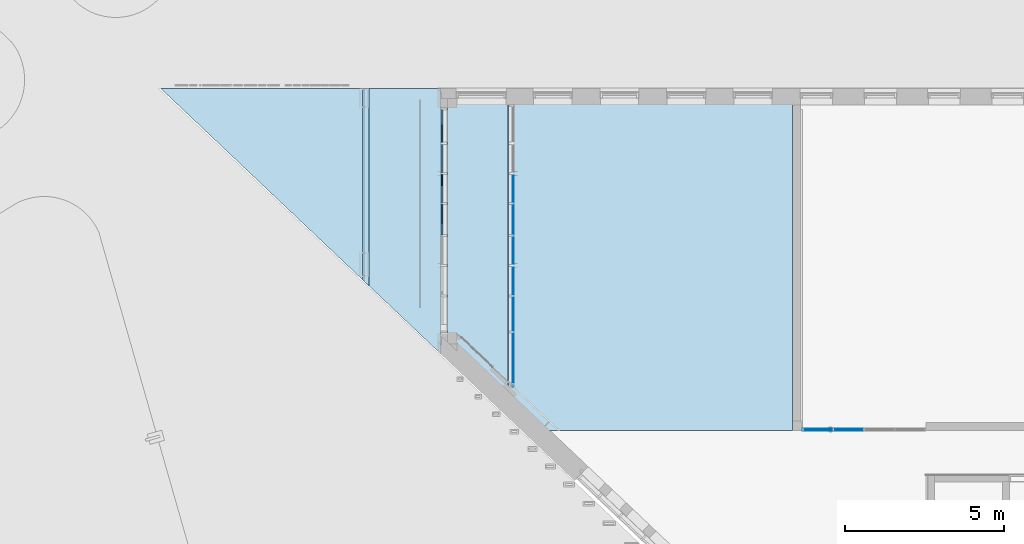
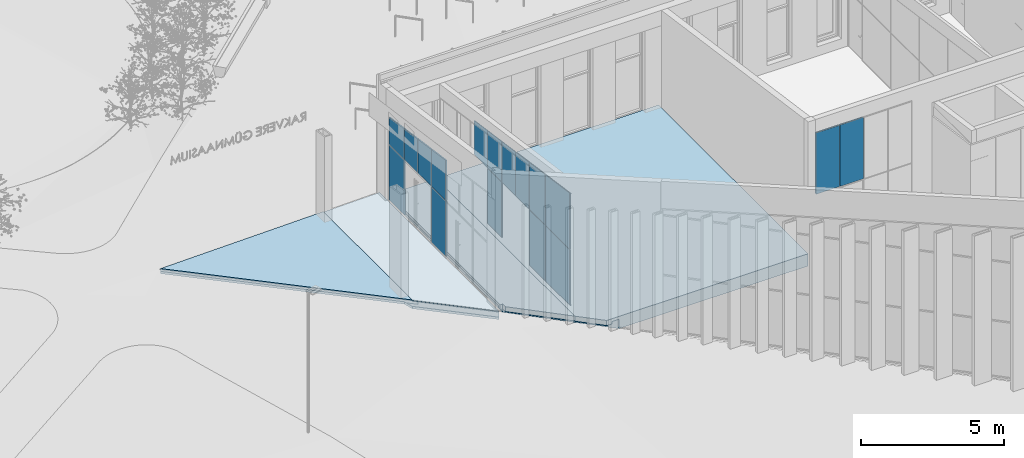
# One storey, part 101 of 246: 17 plates, 8 slabs, 3 elements without a shape of their own.
"""IFC2X3 building model written with IfcOpenShell, lengths in millimetres."""

from ifc_helpers import new_model, entity, si_unit, converted_unit, derived_unit, money_unit, direction, frame, origin_with_axes, place, context, subcontext, project, spatial, faceted_brep, material, material_list, type_object, element, aggregate, save


model = new_model("IFC2X3")

# Units and contexts
model_context = context("Model", 3, precision=0.01, world=origin_with_axes(), true_north=direction((0.0, 1.0)))
body_context = subcontext(model_context, "Body", "Model", "MODEL_VIEW")
ifc_project = project(units=[si_unit("LENGTHUNIT", "METRE", prefix="MILLI"), si_unit("AREAUNIT", "SQUARE_METRE"), si_unit("VOLUMEUNIT", "CUBIC_METRE"), converted_unit("PLANEANGLEUNIT", "DEGREE", entity("IfcPlaneAngleMeasure", 0.0174532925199), si_unit("PLANEANGLEUNIT", "RADIAN"), dimensions=[0, 0, 0, 0, 0, 0, 0]), si_unit("SOLIDANGLEUNIT", "STERADIAN"), money_unit("EUR"), converted_unit("TIMEUNIT", "Year", entity("IfcTimeMeasure", 31556926.0), si_unit("TIMEUNIT", "SECOND"), dimensions=[0, 0, 1, 0, 0, 0, 0]), si_unit("MASSUNIT", "GRAM", prefix="KILO"), si_unit("THERMODYNAMICTEMPERATUREUNIT", "DEGREE_CELSIUS"), si_unit("LUMINOUSINTENSITYUNIT", "LUMEN"), si_unit("ENERGYUNIT", "JOULE", prefix="MEGA"), derived_unit("THERMALCONDUCTANCEUNIT", [(si_unit("POWERUNIT", "WATT"), 1), (si_unit("LENGTHUNIT", "METRE"), -1), (si_unit("THERMODYNAMICTEMPERATUREUNIT", "KELVIN"), -1)]), derived_unit("SPECIFICHEATCAPACITYUNIT", [(si_unit("ENERGYUNIT", "JOULE"), 1), (si_unit("MASSUNIT", "GRAM", prefix="KILO"), -1), (si_unit("THERMODYNAMICTEMPERATUREUNIT", "KELVIN"), -1)]), derived_unit("MASSDENSITYUNIT", [(si_unit("MASSUNIT", "GRAM", prefix="KILO"), 1), (si_unit("VOLUMEUNIT", "CUBIC_METRE"), -1)])], contexts=[model_context])

# Site, building, storey
site_placement = place(None, origin_with_axes())
site = spatial("IfcSite", under=ifc_project, at=site_placement, Name="L.Koidula tn 11b", CompositionType="ELEMENT")
building_placement = place(site_placement, origin_with_axes())
building = spatial("IfcBuilding", under=site, at=building_placement, Name="Rakvere Riigigümnaasium", CompositionType="ELEMENT")
storey_placement = place(building_placement, origin_with_axes())
storey = spatial("IfcBuildingStorey", under=building, at=storey_placement, Name="1.korrus 0,00", CompositionType="ELEMENT", Elevation=0.0)

# Curtain wall, plates
curtain_wall_type = type_object("IfcCurtainWallType", Name="Curtain Wall Type", PredefinedType="NOTDEFINED")
curtain_wall_1_placement = place(storey_placement, frame((14260.0344055, 70945.4519938, -0.000165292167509), z_axis=(0.0, 0.0, 1.0), x_axis=(1.0, 0.0, 0.0)))
curtain_wall_1 = element("IfcCurtainWall", 1, at=curtain_wall_1_placement, inside=storey, type_object=curtain_wall_type, Name="KLF-01A")
ifc_material_1 = material(Name="Klaaspakett 3x")
plate_type_1 = type_object("IfcPlateType", Name="Distinct Panel 1061 x 2351 x 54", PredefinedType="CURTAIN_PANEL")
plate_1_placement = place(curtain_wall_1_placement, frame((0.0, 0.0, 1200.00013009), z_axis=(0.0, 0.0, 1.0), x_axis=(0.0, 1.0, 0.0)))
plate_1 = element("IfcPlate", 2, at=plate_1_placement, type_object=plate_type_1, material=ifc_material_1, Name="KLF-01-Klaasid", ObjectType="CURTAIN_PANEL", context=body_context, shape_type="Brep", body=[
    faceted_brep([(-543.000011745, -27.0, 1188.00012879), (517.999995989, -27.0, 1188.00012879), (517.999995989, 27.0, 1188.00012879), (-543.000011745, 27.0, 1188.00012879), (-543.000011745, -27.0, -1163.00012608), (517.999995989, -27.0, -1163.00012608), (517.999995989, 27.0, -1163.00012608), (-543.000011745, 27.0, -1163.00012608)], [[[0, 1, 2, 3]], [[0, 4, 5, 1]], [[1, 5, 6, 2]], [[3, 2, 6, 7]], [[4, 0, 3, 7]], [[5, 4, 7, 6]]]),
])
plate_type_2 = type_object("IfcPlateType", Name="Distinct Panel 981 x 2351 x 54", PredefinedType="CURTAIN_PANEL")
plate_2_placement = place(curtain_wall_1_placement, frame((0.0, -2957.5, 1200.00013009), z_axis=(0.0, 0.0, 1.0), x_axis=(0.0, 1.0, 0.0)))
plate_2 = element("IfcPlate", 3, at=plate_2_placement, type_object=plate_type_2, material=ifc_material_1, Name="KLF-01-Klaasid", ObjectType="CURTAIN_PANEL", context=body_context, shape_type="Brep", body=[
    faceted_brep([(-490.500000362, -27.0, 1188.00012879), (490.499998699, -27.0, 1188.00012879), (490.499998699, 27.0, 1188.00012879), (-490.500000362, 27.0, 1188.00012879), (-490.500000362, -27.0, -1163.00012608), (490.499998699, -27.0, -1163.00012608), (490.499998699, 27.0, -1163.00012608), (-490.500000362, 27.0, -1163.00012608)], [[[0, 1, 2, 3]], [[0, 4, 5, 1]], [[1, 5, 6, 2]], [[3, 2, 6, 7]], [[4, 0, 3, 7]], [[5, 4, 7, 6]]]),
])
plate_type_3 = type_object("IfcPlateType", Name="Distinct Panel 1061 x 1144 x 54", PredefinedType="CURTAIN_PANEL")
plate_3_placement = place(curtain_wall_1_placement, frame((0.0, 0.0, 3033.32721157), z_axis=(0.0, 0.0, 1.0), x_axis=(0.0, 1.0, 0.0)))
plate_3 = element("IfcPlate", 4, at=plate_3_placement, type_object=plate_type_3, material=ifc_material_1, Name="KLF-01-Klaasid", ObjectType="CURTAIN_PANEL", context=body_context, shape_type="Brep", body=[
    faceted_brep([(-542.999997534, -27.0, 673.239252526), (518.000000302, -27.0, 522.227144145), (518.000000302, 27.0, 522.227144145), (-542.999997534, 27.0, 673.239252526), (-542.999997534, -27.0, -621.326957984), (518.000000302, -27.0, -621.326957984), (518.000000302, 27.0, -621.326957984), (-542.999997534, 27.0, -621.326957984)], [[[0, 1, 2, 3]], [[0, 4, 5, 1]], [[1, 5, 6, 2]], [[3, 2, 6, 7]], [[4, 0, 3, 7]], [[5, 4, 7, 6]]]),
])
plate_type_4 = type_object("IfcPlateType", Name="Distinct Panel 926 x 1433 x 54", PredefinedType="CURTAIN_PANEL")
plate_4_placement = place(curtain_wall_1_placement, frame((0.0, -1980.0, 3174.23388342), z_axis=(0.0, 0.0, 1.0), x_axis=(0.0, 1.0, 0.0)))
plate_4 = element("IfcPlate", 5, at=plate_4_placement, type_object=plate_type_4, material=ifc_material_1, Name="KLF-01-Klaasid", ObjectType="CURTAIN_PANEL", context=body_context, shape_type="Brep", body=[
    faceted_brep([(-463.000011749, -27.0, 802.759487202), (462.999996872, -27.0, 670.962001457), (462.999996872, 27.0, 670.962001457), (-463.000011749, 27.0, 802.759487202), (-463.000011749, -27.0, -762.233620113), (462.999996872, -27.0, -762.233620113), (462.999996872, 27.0, -762.233620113), (-463.000011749, 27.0, -762.233620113)], [[[0, 1, 2, 3]], [[0, 4, 5, 1]], [[1, 5, 6, 2]], [[3, 2, 6, 7]], [[4, 0, 3, 7]], [[5, 4, 7, 6]]]),
])
plate_type_5 = type_object("IfcPlateType", Name="Distinct Panel 926 x 1298 x 54", PredefinedType="CURTAIN_PANEL")
plate_5_placement = place(curtain_wall_1_placement, frame((0.0, -1030.0, 3106.62715372), z_axis=(0.0, 0.0, 1.0), x_axis=(0.0, 1.0, 0.0)))
plate_5 = element("IfcPlate", 6, at=plate_5_placement, type_object=plate_type_5, material=ifc_material_1, Name="KLF-01-Klaasid", ObjectType="CURTAIN_PANEL", context=body_context, shape_type="Brep", body=[
    faceted_brep([(-462.999996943, -27.0, 735.152796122), (463.000004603, -27.0, 603.355197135), (463.000004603, 27.0, 603.355197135), (-462.999996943, 27.0, 735.152796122), (-462.999996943, -27.0, -694.626898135), (463.000004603, -27.0, -694.626898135), (463.000004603, 27.0, -694.626898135), (-462.999996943, 27.0, -694.626898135)], [[[0, 1, 2, 3]], [[0, 4, 5, 1]], [[1, 5, 6, 2]], [[3, 2, 6, 7]], [[4, 0, 3, 7]], [[5, 4, 7, 6]]]),
])
plate_type_6 = type_object("IfcPlateType", Name="Distinct Panel 981 x 1568 x 54", PredefinedType="CURTAIN_PANEL")
plate_6_placement = place(curtain_wall_1_placement, frame((0.0, -2957.5, 3243.79766232), z_axis=(0.0, 0.0, 1.0), x_axis=(0.0, 1.0, 0.0)))
plate_6 = element("IfcPlate", 7, at=plate_6_placement, type_object=plate_type_6, material=ifc_material_1, Name="KLF-01-Klaasid", ObjectType="CURTAIN_PANEL", context=body_context, shape_type="Brep", body=[
    faceted_brep([(-490.500013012, -27.0, 876.237431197), (490.500000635, -27.0, 736.611610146), (490.500000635, 27.0, 736.611610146), (-490.500013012, 27.0, 876.237431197), (-490.500013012, -27.0, -831.797402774), (490.500000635, -27.0, -831.797402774), (490.500000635, 27.0, -831.797402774), (-490.500013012, 27.0, -831.797402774)], [[[0, 1, 2, 3]], [[0, 4, 5, 1]], [[1, 5, 6, 2]], [[3, 2, 6, 7]], [[4, 0, 3, 7]], [[5, 4, 7, 6]]]),
])
aggregate(curtain_wall_1, [plate_1, plate_2, plate_3, plate_4, plate_5, plate_6])

curtain_wall_2_placement = place(storey_placement, frame((26572.4999007, 61372.4546496, 0.0), z_axis=(0.0, 0.0, 1.0), x_axis=(1.0, 0.0, 0.0)))
curtain_wall_2 = element("IfcCurtainWall", 8, at=curtain_wall_2_placement, inside=storey, type_object=curtain_wall_type, Name="SKLF-01")
ifc_material_2 = material(Name="VKR-05_Klaas")
plate_type_7 = type_object("IfcPlateType", Name="Siseklaasfassaad - Klaas-Doubleline30 941 x 2620 x 17", PredefinedType="CURTAIN_PANEL")
plate_7_placement = place(curtain_wall_2_placement, frame((-486.25, 0.0, 3725.0), z_axis=(0.0, 0.0, 1.0), x_axis=(-1.0, 0.0, 0.0)))
plate_7 = element("IfcPlate", 9, at=plate_7_placement, type_object=plate_type_7, material=ifc_material_2, Name="Panel-Siseklaasf-019", ObjectType="CURTAIN_PANEL", context=body_context, shape_type="Brep", body=[
    faceted_brep([(-469.24999553, -37.0, 1310.00000522), (471.250005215, -37.0, 1310.00000522), (471.250005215, -25.0, 1310.00000522), (-469.24999553, -25.0, 1310.00000522), (-469.24999553, -37.0, -1310.00000522), (471.250005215, -37.0, -1310.00000522), (471.250005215, -25.0, -1310.00000522), (-469.24999553, -25.0, -1310.00000522)], [[[0, 1, 2, 3]], [[0, 4, 5, 1]], [[1, 5, 6, 2]], [[3, 2, 6, 7]], [[4, 0, 3, 7]], [[5, 4, 7, 6]]]),
    faceted_brep([(-469.24999553, 15.0, 1310.00000522), (471.250005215, 15.0, 1310.00000522), (471.250005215, 27.0, 1310.00000522), (-469.24999553, 27.0, 1310.00000522), (-469.24999553, 15.0, -1310.00000522), (471.250005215, 15.0, -1310.00000522), (471.250005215, 27.0, -1310.00000522), (-469.24999553, 27.0, -1310.00000522)], [[[0, 1, 2, 3]], [[0, 4, 5, 1]], [[1, 5, 6, 2]], [[3, 2, 6, 7]], [[4, 0, 3, 7]], [[5, 4, 7, 6]]]),
])
plate_type_8 = type_object("IfcPlateType", Name="Siseklaasfassaad - Klaas-Doubleline30 938 x 2620 x 17", PredefinedType="CURTAIN_PANEL")
plate_8_placement = place(curtain_wall_2_placement, frame((486.25, 0.0, 3725.0), z_axis=(0.0, 0.0, 1.0), x_axis=(-1.0, 0.0, 0.0)))
plate_8 = element("IfcPlate", 10, at=plate_8_placement, type_object=plate_type_8, material=ifc_material_2, Name="Panel-Siseklaasf-019", ObjectType="CURTAIN_PANEL", context=body_context, shape_type="Brep", body=[
    faceted_brep([(-469.24999553, -37.0, 1310.00000522), (469.249971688, -37.0, 1310.00000522), (469.249971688, -25.0, 1310.00000522), (-469.24999553, -25.0, 1310.00000522), (-469.24999553, -37.0, -1310.00000522), (469.249971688, -37.0, -1310.00000522), (469.249971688, -25.0, -1310.00000522), (-469.24999553, -25.0, -1310.00000522)], [[[0, 1, 2, 3]], [[0, 4, 5, 1]], [[1, 5, 6, 2]], [[3, 2, 6, 7]], [[4, 0, 3, 7]], [[5, 4, 7, 6]]]),
    faceted_brep([(-469.24999553, 15.0, 1310.00000522), (469.249971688, 15.0, 1310.00000522), (469.249971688, 27.0, 1310.00000522), (-469.24999553, 27.0, 1310.00000522), (-469.24999553, 15.0, -1310.00000522), (469.249971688, 15.0, -1310.00000522), (469.249971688, 27.0, -1310.00000522), (-469.24999553, 27.0, -1310.00000522)], [[[0, 1, 2, 3]], [[0, 4, 5, 1]], [[1, 5, 6, 2]], [[3, 2, 6, 7]], [[4, 0, 3, 7]], [[5, 4, 7, 6]]]),
])
aggregate(curtain_wall_2, [plate_7, plate_8])

curtain_wall_3_placement = place(storey_placement, frame((16510.0495753, 70995.4517615, -0.000456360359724), z_axis=(0.0, 0.0, 1.0), x_axis=(1.0, 0.0, 0.0)))
curtain_wall_3 = element("IfcCurtainWall", 11, at=curtain_wall_3_placement, inside=storey, type_object=curtain_wall_type, Name="KLF-01B")
ifc_material_3 = material(Name="Klaaspakett 2x")
plate_type_9 = type_object("IfcPlateType", Name="Distinct Panel 981 x 2351 x 30", PredefinedType="CURTAIN_PANEL")
plate_9_placement = place(curtain_wall_3_placement, frame((0.0, -3007.49976778, 1200.00014553), z_axis=(0.0, 0.0, 1.0), x_axis=(0.0, 1.0, 0.0)))
plate_9 = element("IfcPlate", 12, at=plate_9_placement, type_object=plate_type_9, material=ifc_material_3, Name="KLF-01-Klaasid", ObjectType="CURTAIN_PANEL", context=body_context, shape_type="Brep", body=[
    faceted_brep([(-490.500000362, 15.0, 1188.00011335), (-490.500000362, -15.0, 1188.00011335), (490.499998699, -15.0, 1188.00011335), (490.499998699, 15.0, 1188.00011335), (-490.500000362, 15.0, -1163.00014152), (-490.500000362, -15.0, -1163.00014152), (490.499998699, -15.0, -1163.00014152), (490.499998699, 15.0, -1163.00014152)], [[[0, 1, 2, 3]], [[4, 5, 1, 0]], [[1, 5, 6, 2]], [[3, 2, 6, 7]], [[0, 3, 7, 4]], [[7, 6, 5, 4]]]),
])
plate_type_10 = type_object("IfcPlateType", Name="Distinct Panel 926 x 1725 x 30", PredefinedType="CURTAIN_PANEL")
plate_10_placement = place(curtain_wall_3_placement, frame((0.0, -3984.99976778, 3320.2154147), z_axis=(0.0, 0.0, 1.0), x_axis=(0.0, 1.0, 0.0)))
plate_10 = element("IfcPlate", 13, at=plate_10_placement, type_object=plate_type_10, material=ifc_material_3, Name="KLF-01-Klaasid", ObjectType="CURTAIN_PANEL", context=body_context, shape_type="Brep", body=[
    faceted_brep([(-463.000007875, 15.0, 948.736929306), (-463.000007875, -15.0, 948.736929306), (462.999990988, -15.0, 816.947652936), (462.999990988, 15.0, 816.947652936), (-463.000007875, 15.0, -908.215114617), (-463.000007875, -15.0, -908.215114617), (462.999990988, -15.0, -908.215114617), (462.999990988, 15.0, -908.215114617)], [[[0, 1, 2, 3]], [[4, 5, 1, 0]], [[1, 5, 6, 2]], [[3, 2, 6, 7]], [[0, 3, 7, 4]], [[7, 6, 5, 4]]]),
])
plate_type_11 = type_object("IfcPlateType", Name="Distinct Panel 926 x 1860 x 30", PredefinedType="CURTAIN_PANEL")
plate_11_placement = place(curtain_wall_3_placement, frame((0.0, -4934.99976778, 3387.81793702), z_axis=(0.0, 0.0, 1.0), x_axis=(0.0, 1.0, 0.0)))
plate_11 = element("IfcPlate", 14, at=plate_11_placement, type_object=plate_type_11, material=ifc_material_3, Name="KLF-01-Klaasid", ObjectType="CURTAIN_PANEL", context=body_context, shape_type="Brep", body=[
    faceted_brep([(-463.000012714, 15.0, 1016.33952648), (-463.000012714, -15.0, 1016.33952648), (463.000002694, -15.0, 884.550094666), (463.000002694, 15.0, 884.550094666), (-463.000012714, 15.0, -975.817648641), (-463.000012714, -15.0, -975.817648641), (463.000002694, -15.0, -975.817648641), (463.000002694, 15.0, -975.817648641)], [[[0, 1, 2, 3]], [[4, 5, 1, 0]], [[1, 5, 6, 2]], [[3, 2, 6, 7]], [[0, 3, 7, 4]], [[7, 6, 5, 4]]]),
])
plate_type_12 = type_object("IfcPlateType", Name="Distinct Panel 1111 x 2351 x 30", PredefinedType="CURTAIN_PANEL")
plate_12_placement = place(curtain_wall_3_placement, frame((0.0, -5977.49976778, 1200.00014553), z_axis=(0.0, 0.0, 1.0), x_axis=(0.0, 1.0, 0.0)))
plate_12 = element("IfcPlate", 15, at=plate_12_placement, type_object=plate_type_12, material=ifc_material_3, Name="KLF-04-Klaasid", ObjectType="CURTAIN_PANEL", context=body_context, shape_type="Brep", body=[
    faceted_brep([(-555.500014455, 15.0, 1188.00011335), (-555.500014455, -15.0, 1188.00011335), (555.499998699, -15.0, 1188.00011335), (555.499998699, 15.0, 1188.00011335), (-555.500014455, 15.0, -1163.00014152), (-555.500014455, -15.0, -1163.00014152), (555.499998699, -15.0, -1163.00014152), (555.499998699, 15.0, -1163.00014152)], [[[0, 1, 2, 3]], [[4, 5, 1, 0]], [[1, 5, 6, 2]], [[3, 2, 6, 7]], [[0, 3, 7, 4]], [[7, 6, 5, 4]]]),
])
plate_type_13 = type_object("IfcPlateType", Name="Distinct Panel 1111 x 1996 x 30", PredefinedType="CURTAIN_PANEL")
plate_13_placement = place(curtain_wall_3_placement, frame((0.0, -5977.49976778, 3462.00281132), z_axis=(0.0, 0.0, 1.0), x_axis=(0.0, 1.0, 0.0)))
plate_13 = element("IfcPlate", 16, at=plate_13_placement, type_object=plate_type_13, material=ifc_material_3, Name="KLF-03-Klaasid", ObjectType="CURTAIN_PANEL", context=body_context, shape_type="Brep", body=[
    faceted_brep([(-555.50000527, 15.0, 1103.68899152), (-555.50000527, -15.0, 1103.68899152), (555.499989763, -15.0, 945.570353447), (555.499989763, 15.0, 945.570353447), (-555.50000527, 15.0, -1050.00251002), (-555.50000527, -15.0, -1050.00251002), (555.499989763, -15.0, -1050.00251002), (555.499989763, 15.0, -1050.00251002)], [[[0, 1, 2, 3]], [[4, 5, 1, 0]], [[1, 5, 6, 2]], [[3, 2, 6, 7]], [[0, 3, 7, 4]], [[7, 6, 5, 4]]]),
])
plate_type_14 = type_object("IfcPlateType", Name="Distinct Panel 926 x 1447 x 30", PredefinedType="CURTAIN_PANEL")
plate_14_placement = place(curtain_wall_3_placement, frame((0.0, -2029.99976778, 3181.09657133), z_axis=(0.0, 0.0, 1.0), x_axis=(0.0, 1.0, 0.0)))
plate_14 = element("IfcPlate", 17, at=plate_14_placement, type_object=plate_type_14, material=ifc_material_3, Name="KLF-01-Klaasid", ObjectType="CURTAIN_PANEL", context=body_context, shape_type="Brep", body=[
    faceted_brep([(-463.00000889, 15.0, 809.618106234), (-463.00000889, -15.0, 809.618106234), (462.999991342, -15.0, 677.82881228), (462.999991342, 15.0, 677.82881228), (-463.00000889, 15.0, -769.096271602), (-463.00000889, -15.0, -769.096271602), (462.999991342, -15.0, -769.096271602), (462.999991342, 15.0, -769.096271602)], [[[0, 1, 2, 3]], [[4, 5, 1, 0]], [[1, 5, 6, 2]], [[3, 2, 6, 7]], [[0, 3, 7, 4]], [[7, 6, 5, 4]]]),
])
plate_type_15 = type_object("IfcPlateType", Name="Distinct Panel 981 x 1582 x 30", PredefinedType="CURTAIN_PANEL")
plate_15_placement = place(curtain_wall_3_placement, frame((0.0, -3007.49976778, 3250.65599301), z_axis=(0.0, 0.0, 1.0), x_axis=(0.0, 1.0, 0.0)))
plate_15 = element("IfcPlate", 18, at=plate_15_placement, type_object=plate_type_15, material=ifc_material_3, Name="KLF-01-Klaasid", ObjectType="CURTAIN_PANEL", context=body_context, shape_type="Brep", body=[
    faceted_brep([(-490.500007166, 15.0, 883.09137569), (-490.500007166, -15.0, 883.09137569), (490.50000542, -15.0, 743.474347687), (490.50000542, 15.0, 743.474347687), (-490.500007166, 15.0, -838.655707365), (-490.500007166, -15.0, -838.655707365), (490.50000542, -15.0, -838.655707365), (490.50000542, 15.0, -838.655707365)], [[[0, 1, 2, 3]], [[4, 5, 1, 0]], [[1, 5, 6, 2]], [[3, 2, 6, 7]], [[0, 3, 7, 4]], [[7, 6, 5, 4]]]),
])
plate_type_16 = type_object("IfcPlateType", Name="Distinct Panel 1588 x 2351 x 30", PredefinedType="CURTAIN_PANEL")
plate_16_placement = place(curtain_wall_3_placement, frame((0.0, -7742.63751031, 1036.79126438), z_axis=(0.0, 0.0, 1.0), x_axis=(0.0, 1.0, 0.0)))
plate_16 = element("IfcPlate", 19, at=plate_16_placement, type_object=plate_type_16, material=ifc_material_3, Name="KLF-05-Klaasid", ObjectType="CURTAIN_PANEL", context=body_context, shape_type="Brep", body=[
    faceted_brep([(-500.183649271, 15.0, 1351.20902523), (-500.183649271, -15.0, 1351.20902523), (-402.362272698, -15.0, 1351.20902523), (-402.362272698, 15.0, 1351.20902523), (-500.183649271, 15.0, -979.253277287), (-500.183649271, -15.0, -979.253277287), (-530.18365291, -15.0, -979.253277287), (-530.18365291, -15.0, -999.791259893), (-402.362272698, -15.0, -999.791259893), (1185.63774108, -15.0, -999.791259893), (1185.63774108, -15.0, 1351.20902523), (1185.63774108, 15.0, 1351.20902523), (1185.63774108, 15.0, -999.791259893), (-402.362272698, 15.0, -999.791259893), (-530.18365291, 15.0, -999.791259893), (-530.18365291, 15.0, -979.253277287)], [[[0, 1, 2, 3]], [[4, 5, 1, 0]], [[1, 5, 6, 7, 8, 9, 10, 2]], [[3, 2, 10, 11]], [[0, 3, 11, 12, 13, 14, 15, 4]], [[15, 6, 5, 4]], [[14, 7, 6, 15]], [[13, 8, 7, 14]], [[12, 9, 8, 13]], [[11, 10, 9, 12]]]),
])
plate_type_17 = type_object("IfcPlateType", Name="Distinct Panel 1588 x 2157 x 30", PredefinedType="CURTAIN_PANEL")
plate_17_placement = place(curtain_wall_3_placement, frame((0.0, -7742.63751031, 3754.43962306), z_axis=(0.0, 0.0, 1.0), x_axis=(0.0, 1.0, 0.0)))
plate_17 = element("IfcPlate", 20, at=plate_17_placement, type_object=plate_type_17, material=ifc_material_3, Name="KLF-06-Klaasid", ObjectType="CURTAIN_PANEL", context=body_context, shape_type="Brep", body=[
    faceted_brep([(-530.18366396, 15.0, 1058.86539613), (-530.18366396, -15.0, 1058.86539613), (-407.57561642, -15.0, 1041.41564617), (-407.57561642, 15.0, 1041.41564617), (-530.18366396, 15.0, 1038.7003155), (-530.18366396, -15.0, 1038.7003155), (-500.183671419, -15.0, 1038.7003155), (-500.183671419, -15.0, -1342.43934228), (-402.362273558, -15.0, -1342.43934228), (1185.63775282, -15.0, -1342.43934228), (1185.63775282, -15.0, 814.667933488), (1185.63775282, 15.0, 814.667933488), (1185.63775282, 15.0, -1342.43934228), (-402.362273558, 15.0, -1342.43934228), (-500.183671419, 15.0, -1342.43934228), (-500.183671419, 15.0, 1038.7003155)], [[[0, 1, 2, 3]], [[4, 5, 1, 0]], [[1, 5, 6, 7, 8, 9, 10, 2]], [[3, 2, 10, 11]], [[0, 3, 11, 12, 13, 14, 15, 4]], [[15, 6, 5, 4]], [[14, 7, 6, 15]], [[13, 8, 7, 14]], [[12, 9, 8, 13]], [[11, 10, 9, 12]]]),
])
aggregate(curtain_wall_3, [plate_9, plate_10, plate_11, plate_12, plate_13, plate_14, plate_15, plate_16, plate_17])

# Slabs
ifc_material_4 = material(Name="Betoon- must")
ifc_material_5 = material(Name="Soojustus - EPS")
ifc_material_6 = material(Name="Killustik")
ifc_material_list_1 = material_list([ifc_material_4, ifc_material_5, ifc_material_5, ifc_material_6])
slab_type_1 = type_object("IfcSlabType", Name="PP-03 520", PredefinedType="NOTDEFINED")
slab_1_placement = place(storey_placement, frame((16342.0000292, 62125.351306, 0.0), z_axis=(0.0, 0.0, 1.0), x_axis=(1.0, 0.0, 0.0)))
element("IfcSlab", 21, at=slab_1_placement, inside=storey, type_object=slab_type_1, material=ifc_material_list_1, Name="Põrand pinnasel", PredefinedType="NOTDEFINED", context=body_context, shape_type="Brep", body=[
    faceted_brep([(831.168485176, -784.896656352, -120.0), (831.168485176, -784.896656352, 0.0), (0.0, 0.0, 0.0), (0.0, 0.0, -120.0), (8957.99987111, -784.896656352, -120.0), (8957.99987111, -784.896656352, 0.0), (8957.99987492, 9675.10068777, 0.0), (0.0, 9675.10042999, 0.0), (0.0, 9675.10042999, -120.0), (8957.99987492, 9675.10068777, -120.0)], [[[0, 1, 2, 3]], [[4, 5, 1, 0]], [[2, 1, 5, 6, 7]], [[3, 2, 7, 8]], [[3, 8, 9, 4, 0]], [[9, 6, 5, 4]], [[8, 7, 6, 9]]]),
    faceted_brep([(1035.28412372, -784.896656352, -220.0), (1035.28412372, -784.896656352, -120.0), (831.168485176, -784.896656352, -120.0), (831.168485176, -784.896656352, -220.0), (0.0, 195.778223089, -120.0), (0.0, 195.778223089, -220.0), (0.0, 0.0, -120.0), (0.0, 0.0, -220.0)], [[[0, 1, 2, 3]], [[4, 1, 0, 5]], [[1, 4, 6, 2]], [[7, 3, 2, 6]], [[5, 0, 3, 7]], [[4, 5, 7, 6]]]),
    faceted_brep([(0.0, 471.26224876, -120.0), (1326.10857951, -784.896656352, -120.0), (8957.99987111, -784.896656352, -120.0), (8957.99987485, 9475.10037785, -120.0), (0.0, 9475.10037785, -120.0), (1326.10857951, -784.896656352, -220.0), (0.0, 471.26224876, -220.0), (8957.99987111, -784.896656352, -220.0), (8957.99987485, 9475.10037785, -220.0), (0.0, 9475.10037785, -220.0)], [[[0, 1, 2, 3, 4]], [[5, 1, 0, 6]], [[1, 5, 7, 2]], [[8, 3, 2, 7]], [[4, 3, 8, 9]], [[6, 0, 4, 9]], [[5, 6, 9, 8, 7]]]),
    faceted_brep([(0.0, 471.26224876, -220.0), (1326.10857951, -784.896656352, -220.0), (8957.99987111, -784.896656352, -220.0), (8957.99987485, 9475.10037785, -220.0), (0.0, 9475.10037785, -220.0), (1326.10857951, -784.896656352, -320.0), (0.0, 471.26224876, -320.0), (8957.99987111, -784.896656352, -320.0), (8957.99987485, 9475.10037785, -320.0), (0.0, 9475.10037785, -320.0)], [[[0, 1, 2, 3, 4]], [[5, 1, 0, 6]], [[1, 5, 7, 2]], [[8, 3, 2, 7]], [[4, 3, 8, 9]], [[6, 0, 4, 9]], [[5, 6, 9, 8, 7]]]),
    faceted_brep([(0.0, 471.26224876, -320.0), (1326.10857951, -784.896656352, -320.0), (8957.99987111, -784.896656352, -320.0), (8957.99987485, 9475.10037785, -320.0), (0.0, 9475.10037785, -320.0), (1326.10857951, -784.896656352, -520.0), (0.0, 471.26224876, -520.0), (8957.99987111, -784.896656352, -520.0), (8957.99987485, 9475.10037785, -520.0), (0.0, 9475.10037785, -520.0)], [[[0, 1, 2, 3, 4]], [[5, 1, 0, 6]], [[1, 5, 7, 2]], [[8, 3, 2, 7]], [[4, 3, 8, 9]], [[6, 0, 4, 9]], [[5, 6, 9, 8, 7]]]),
])
slab_type_2 = type_object("IfcSlabType", Name="Betoon- must 154", PredefinedType="NOTDEFINED")
slab_2_placement = place(storey_placement, frame((14216.0344056, 69621.5499024, -173.720734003), z_axis=(0.0, 0.0, 1.0), x_axis=(0.0, 1.0, 0.0)))
element("IfcSlab", 22, at=slab_2_placement, inside=storey, type_object=slab_type_2, material=ifc_material_4, Name="Põrand pinnasel kaldus", PredefinedType="NOTDEFINED", context=body_context, shape_type="Brep", body=[
    faceted_brep([(2492.90178168, 2249.90688576, 108.280264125), (2492.90178168, 2249.90688576, 54.5940977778), (2492.90178168, 2100.03058332, 57.466124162), (2492.90178167, 2100.03058306, -42.4134779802), (2492.90178139, 2413.76237829, -48.7497936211), (2492.90178139, 2459.95718343, -15.9813735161), (2492.90178139, 8812.32317298, -144.277569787), (2492.90178139, 8812.32317299, -24.2582340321), (-3724.46158045, 2249.90688576, 108.280264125), (-3724.46158039, 2249.90688576, 54.5940977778), (-3866.45736231, 2100.03058332, 57.466124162), (-3866.45736256, 2100.03058306, -42.4134779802), (-3569.22163661, 2413.76237829, -48.7497936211), (-3525.45576178, 2459.95718343, -15.9813735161)], [[[0, 1, 2, 3, 4, 5, 6, 7]], [[1, 0, 8, 9]], [[10, 2, 1, 9]], [[2, 10, 11, 3]], [[11, 12, 4, 3]], [[13, 5, 4, 12]], [[6, 5, 13]], [[9, 8, 7, 6, 13, 12, 11, 10]], [[8, 0, 7]]]),
])
ifc_material_7 = material(Name="Betoon")
slab_type_3 = type_object("IfcSlabType", Name="Betoon 220", PredefinedType="NOTDEFINED")
slab_3_placement = place(storey_placement, frame((14216.0344056, 69621.5499024, -293.683915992), z_axis=(0.0, 0.0, 1.0), x_axis=(0.0, 1.0, 0.0)))
element("IfcSlab", 23, at=slab_3_placement, inside=storey, type_object=slab_type_3, material=ifc_material_7, Name="Põrand pinnasel kaldus", PredefinedType="NOTDEFINED", context=body_context, shape_type="Brep", body=[
    faceted_brep([(2492.90178168, 2100.03058306, 177.429306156), (2492.90178168, -14.9997963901, 217.958882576), (2492.90178108, -14.9997963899, 0.302944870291), (2492.90178139, 2251.77098841, -45.4781184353), (2492.90178139, 2251.77098841, -43.6956777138), (2492.90178139, 2409.96737794, 68.5213937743), (2492.90178167, 2409.96737794, 71.2900344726), (2492.90178167, 2100.03058306, 77.5497040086), (-5869.09300007, -14.9997963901, 217.958882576), (2342.90178121, 2100.03058306, 177.429306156), (2342.90178121, 89.9990036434, 215.946827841), (-5563.62015754, 89.9990036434, 215.946827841), (-3659.27636885, 2100.03058306, 177.429306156), (-3865.27126545, 2100.03058306, 177.429306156), (-5869.09300045, -14.9997963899, 0.302944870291), (-3721.50939555, 2251.77098841, -45.4781184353), (-3721.50939555, 2251.77098841, -43.6956777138), (-3571.63099813, 2409.96737794, 68.5213937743), (-3571.63099813, 2409.96737794, 71.2900344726), (-3865.27126546, 2100.03058306, 77.5497040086), (-3659.27636889, 2100.03058306, 77.5497040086), (-5563.62015754, 89.9990036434, 118.145506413), (2342.90178121, 89.9990036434, 118.145506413), (2342.90178121, 2100.03058306, 77.5497040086)], [[[0, 1, 2, 3, 4, 5, 6, 7]], [[8, 1, 0, 9, 10, 11, 12, 13]], [[1, 8, 14, 2]], [[14, 15, 3, 2]], [[16, 4, 3, 15]], [[17, 5, 4, 16]], [[6, 5, 17, 18]], [[18, 19, 20, 21, 22, 23, 7, 6]], [[9, 0, 7, 23]], [[10, 9, 23, 22]], [[11, 10, 22, 21]], [[12, 11, 21, 20]], [[13, 12, 20, 19]], [[8, 13, 19, 18, 17, 16, 15, 14]]]),
])
ifc_material_8 = material(Name="Terasrest-porirest")
ifc_material_9 = material(Name="Betoon element / plaat")
ifc_material_list_2 = material_list([ifc_material_8, ifc_material_9, ifc_material_5, ifc_material_5, ifc_material_6])
slab_type_4 = type_object("IfcSlabType", Name="PP-01-4 507", PredefinedType="NOTDEFINED")
slab_4_placement = place(storey_placement, frame((14430.0344055, 71600.4516838, 0.0), z_axis=(0.0, 0.0, 1.0), x_axis=(1.0, 0.0, 0.0)))
element("IfcSlab", 24, at=slab_4_placement, inside=storey, type_object=slab_type_4, material=ifc_material_list_2, Name="Põrand pinnasel", PredefinedType="NOTDEFINED", context=body_context, shape_type="Brep", body=[
    faceted_brep([(0.0, -7574.75839646, -27.0), (0.0, -7574.75839646, 0.0), (0.0, 0.0, 0.0), (0.0, 0.0, -27.0), (100.0, -7574.75839646, -27.0), (100.0, -7574.75839646, 0.0), (100.0, -7764.00836124, 0.0), (1911.96562367, -9475.10037785, 0.0), (1911.96562367, 200.000052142, 0.0), (100.0, 200.0, 0.0), (100.0, 0.0, 0.0), (100.0, 0.0, -27.0), (100.0, 200.0, -27.0), (1911.96562367, 200.000052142, -27.0), (1911.96562367, -9475.10037785, -27.0), (100.0, -7764.00836124, -27.0)], [[[0, 1, 2, 3]], [[4, 5, 1, 0]], [[2, 1, 5, 6, 7, 8, 9, 10]], [[3, 2, 10, 11]], [[3, 11, 12, 13, 14, 15, 4, 0]], [[15, 6, 5, 4]], [[14, 7, 6, 15]], [[13, 8, 7, 14]], [[12, 9, 8, 13]], [[11, 10, 9, 12]]]),
    faceted_brep([(0.0, 0.0, -107.0), (0.0, -7574.75839646, -107.0), (0.0, -7574.75839646, -27.0), (0.0, 0.0, -27.0), (100.0, 0.0, -107.0), (100.0, 200.0, -107.0), (1911.96562367, 200.000052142, -107.0), (1911.96562367, -9475.10037785, -107.0), (100.0, -7764.00836124, -107.0), (100.0, -7574.75839646, -107.0), (100.0, -7574.75839646, -27.0), (100.0, 0.0, -27.0), (100.0, -7764.00836124, -27.0), (1911.96562367, -9475.10037785, -27.0), (1911.96562367, 200.000052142, -27.0), (100.0, 200.0, -27.0)], [[[0, 1, 2, 3]], [[1, 0, 4, 5, 6, 7, 8, 9]], [[1, 9, 10, 2]], [[11, 3, 2, 10, 12, 13, 14, 15]], [[4, 0, 3, 11]], [[5, 4, 11, 15]], [[6, 5, 15, 14]], [[7, 6, 14, 13]], [[8, 7, 13, 12]], [[9, 8, 12, 10]]]),
    faceted_brep([(1911.96562367, -9279.32215476, -207.0), (1911.96562367, -9279.32215476, -107.0), (1911.96562367, -9475.10037785, -107.0), (1911.96562367, -9475.10037785, -207.0), (200.0, -7657.65942168, -107.0), (200.0, -7657.65942168, -207.0), (0.0, -7468.20903662, -107.0), (0.0, -7574.75839646, -107.0), (100.0, -7574.75839646, -107.0), (100.0, -7764.00836124, -107.0), (100.0, -7764.00836124, -207.0), (100.0, -7574.75839646, -207.0), (0.0, -7574.75839646, -207.0), (0.0, -7468.20903662, -207.0)], [[[0, 1, 2, 3]], [[4, 1, 0, 5]], [[1, 4, 6, 7, 8, 9, 2]], [[10, 3, 2, 9]], [[5, 0, 3, 10, 11, 12, 13]], [[4, 5, 13, 6]], [[6, 13, 12, 7]], [[12, 11, 8, 7]], [[11, 10, 9, 8]]]),
    faceted_brep([(200.0, -7382.17539601, -107.0), (1911.96562367, -9003.83812909, -107.0), (1911.96562367, 0.0, -107.0), (200.0, 0.0, -107.0), (1911.96562367, -9003.83812909, -207.0), (200.0, -7382.17539601, -207.0), (1911.96562367, 0.0, -207.0), (200.0, 0.0, -207.0)], [[[0, 1, 2, 3]], [[4, 1, 0, 5]], [[1, 4, 6, 2]], [[7, 3, 2, 6]], [[5, 0, 3, 7]], [[4, 5, 7, 6]]]),
    faceted_brep([(200.0, -7382.17539601, -207.0), (1911.96562367, -9003.83812909, -207.0), (1911.96562367, 0.0, -207.0), (200.0, 0.0, -207.0), (1911.96562367, -9003.83812909, -307.0), (200.0, -7382.17539601, -307.0), (1911.96562367, 0.0, -307.0), (200.0, 0.0, -307.0)], [[[0, 1, 2, 3]], [[4, 1, 0, 5]], [[1, 4, 6, 2]], [[7, 3, 2, 6]], [[5, 0, 3, 7]], [[4, 5, 7, 6]]]),
    faceted_brep([(200.0, -7382.17539601, -307.0), (1911.96562367, -9003.83812909, -307.0), (1911.96562367, 0.0, -307.0), (200.0, 0.0, -307.0), (1911.96562367, -9003.83812909, -507.0), (200.0, -7382.17539601, -507.0), (1911.96562367, 0.0, -507.0), (200.0, 0.0, -507.0)], [[[0, 1, 2, 3]], [[4, 1, 0, 5]], [[1, 4, 6, 2]], [[7, 3, 2, 6]], [[5, 0, 3, 7]], [[4, 5, 7, 6]]]),
])
ifc_material_10 = material(Name="Terasrest")
slab_type_5 = type_object("IfcSlabType", Name="Terasrest 30", PredefinedType="NOTDEFINED")
slab_5_placement = place(storey_placement, frame((14216.12752, 69621.5499024, -76.0106848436), z_axis=(0.0, 0.0, 1.0), x_axis=(0.0, 1.0, 0.0)))
element("IfcSlab", 25, at=slab_5_placement, inside=storey, type_object=slab_type_5, material=ifc_material_10, Name="Põrand pinnasel kaldus", PredefinedType="NOTDEFINED", context=body_context, shape_type="Brep", body=[
    faceted_brep([(-5870.3966471, -14.9066816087, 30.2853104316), (2492.90178139, -14.9066816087, 30.2853104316), (2492.90178139, 2250.00000011, -13.1162923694), (-3724.57913042, 2250.00000011, -13.1162923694), (-5870.39664749, -14.9066819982, 0.285651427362), (2492.90178168, -14.9066819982, 0.285651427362), (2492.90178168, 2250.00000015, -43.1159513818), (-3724.57913019, 2250.00000015, -43.1159513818)], [[[0, 1, 2, 3]], [[1, 0, 4, 5]], [[2, 1, 5, 6]], [[3, 2, 6, 7]], [[0, 3, 7, 4]], [[5, 4, 7, 6]]]),
])
ifc_material_11 = material(Name="XPS")
slab_type_6 = type_object("IfcSlabType", Name="XPS 100", PredefinedType="NOTDEFINED")
slab_6_placement = place(storey_placement, frame((12196.010935, 69621.3945082, -280.816942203), z_axis=(0.0, 0.0, 1.0), x_axis=(0.0, 1.0, 0.0)))
element("IfcSlab", 26, at=slab_6_placement, inside=storey, type_object=slab_type_6, material=ifc_material_11, Name="Põrand pinnasel kaldus", PredefinedType="NOTDEFINED", context=body_context, shape_type="Brep", body=[
    faceted_brep([(-3525.50613757, 439.933712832, 91.1148346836), (2493.0571756, 439.933712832, 91.1148346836), (2493.0571756, 6792.51692034, -37.1857486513), (-3525.50613796, 439.933712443, -8.88516531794), (2493.05717545, 439.933712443, -8.88516531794), (2493.05717545, 6792.5169204, -137.185748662)], [[[0, 1, 2]], [[1, 0, 3, 4]], [[2, 1, 4, 5]], [[0, 2, 5, 3]], [[4, 3, 5]]]),
])
slab_7_placement = place(storey_placement, frame((14064.2940007, 69621.5499024, -396.744214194), z_axis=(0.0, 0.0, 1.0), x_axis=(0.0, 1.0, 0.0)))
element("IfcSlab", 27, at=slab_7_placement, inside=storey, type_object=slab_type_6, material=ifc_material_11, Name="Põrand pinnasel kaldus", PredefinedType="NOTDEFINED", context=body_context, shape_type="Brep", body=[
    faceted_brep([(-5870.317612, -166.740200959, 103.367585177), (2492.90178139, -166.740200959, 103.367585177), (2492.90178139, 2100.03058345, 57.5865218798), (-3722.73400746, 2100.03058345, 57.5865218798), (-5870.31761239, -166.740201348, 3.36758517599), (2492.90178102, -166.740201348, 3.36758517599), (2492.90178102, 2100.03058344, -42.4134781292), (-3722.7340076, 2100.03058344, -42.4134781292)], [[[0, 1, 2, 3]], [[1, 0, 4, 5]], [[2, 1, 5, 6]], [[3, 2, 6, 7]], [[0, 3, 7, 4]], [[5, 4, 7, 6]]]),
])
slab_type_7 = type_object("IfcSlabType", Name="XPS 82", PredefinedType="NOTDEFINED")
slab_8_placement = place(storey_placement, frame((11964.2634172, 71399.0405116, -437.379593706), z_axis=(0.0, 0.0, 1.0), x_axis=(0.0, 1.0, 0.0)))
element("IfcSlab", 28, at=slab_8_placement, inside=storey, type_object=slab_type_7, material=ifc_material_11, Name="Põrand pinnasel kaldus", PredefinedType="NOTDEFINED", context=body_context, shape_type="Brep", body=[
    faceted_brep([(-5504.69430383, 0.0, 100.0), (715.411172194, 0.0, 100.0), (715.411172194, 208.186195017, 247.677486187), (-5307.45457311, 208.186195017, 247.677486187), (-5504.69430418, 1.95534255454e-07, -2.54281817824e-07), (715.411172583, 1.95534255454e-07, -2.54281817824e-07), (715.411172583, 208.186195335, 147.677486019), (-5307.45457274, 208.186195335, 147.677486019)], [[[0, 1, 2, 3]], [[1, 0, 4, 5]], [[2, 1, 5, 6]], [[3, 2, 6, 7]], [[0, 3, 7, 4]], [[5, 4, 7, 6]]]),
])

save(model, "model.ifc")
